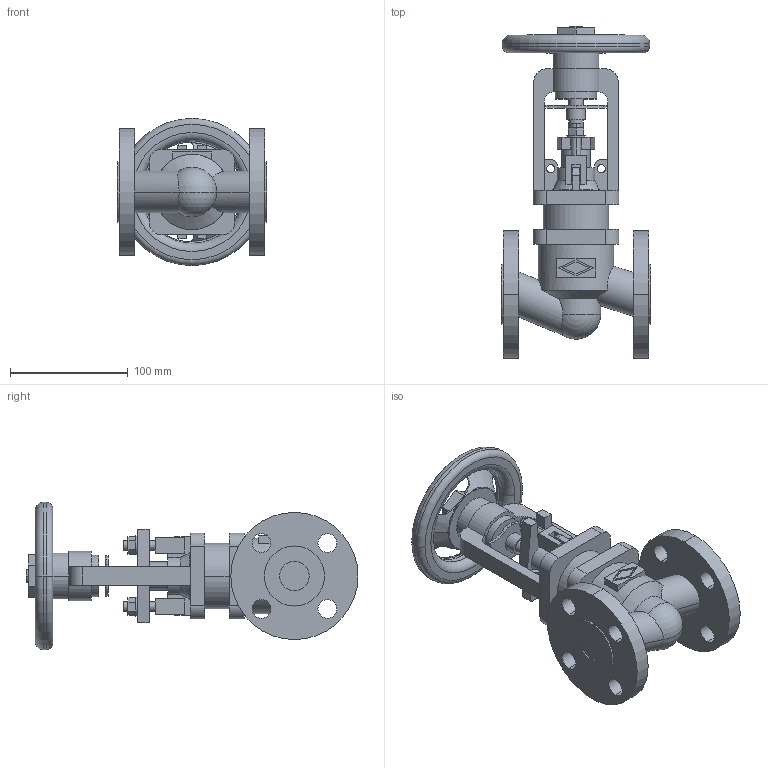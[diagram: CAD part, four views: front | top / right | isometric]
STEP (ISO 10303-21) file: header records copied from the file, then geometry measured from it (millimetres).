
FILE_DESCRIPTION(('OneSpaceDesigner STEP Export'),'2;1');
FILE_NAME('c000004204.stp','2010-04-30T 8:19:01',(''),(''),'OneSpace Designer STEP processor for AP214 (Solid Model)','OneSpace Modeling 15.50B 03-Nov-2007 (C) CoCreate Software GmbH','');
FILE_SCHEMA(('AUTOMOTIVE_DESIGN { 1 0 10303 214 1 1 1 1 }'));
Length unit declared in the file: millimetre
Products named in the file (1): 1
Bounding box: 127 x 282 x 125 mm (x, y, z)
Volume: 901559.7 mm3; surface area: 155668.5 mm2
Topology: 1 solids, 1 shells, 283 faces, 758 edges, 499 vertices
Faces by surface type: plane 140, cylinder 115, torus 14, cone 12, sphere 2
Entity records: 11206 total; most frequent: CARTESIAN_POINT 2146, ORIENTED_EDGE 1512, DIRECTION 1271, EDGE_CURVE 756, VERTEX_POINT 499, AXIS2_PLACEMENT_3D 427, VECTOR 417, LINE 417
